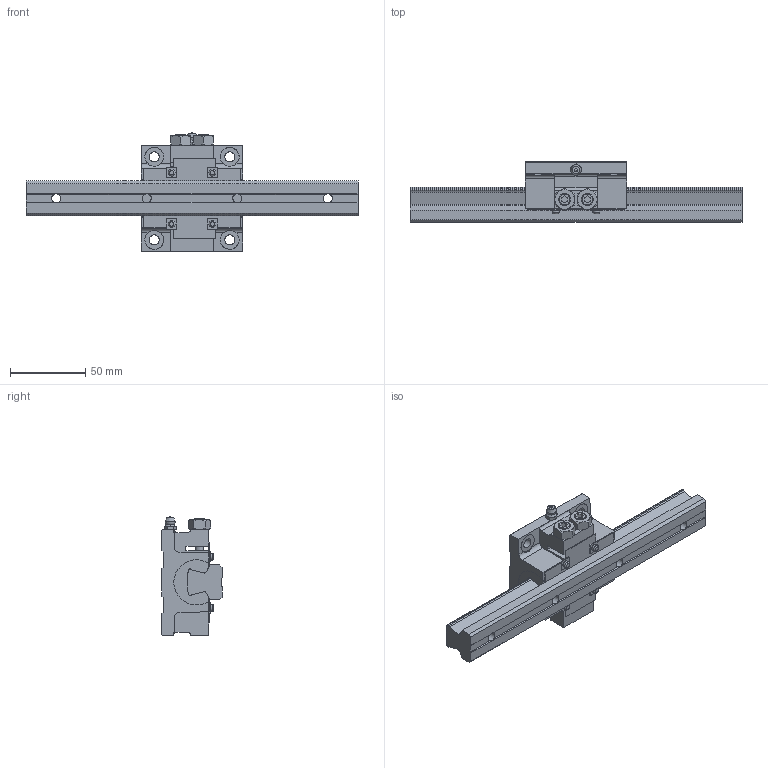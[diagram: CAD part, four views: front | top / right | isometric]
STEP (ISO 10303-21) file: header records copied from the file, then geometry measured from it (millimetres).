
FILE_DESCRIPTION(/* description */ ('STEP AP203'),/* implementation_level */ '2;1');
FILE_NAME(/* name */ 'NSR20TBC1-220L_G20_0_A-M6F_76-5_0_0_0',/* time_stamp */ '2024-05-21T12:12:19+02:00',/* author */ ('License CC BY-ND 4.0'),/* organization */ ('CADENAS'),/* preprocessor_version */ 'ST-DEVELOPER v19.3',/* originating_system */ 'PARTsolutions',/* authorisation */ ' ');
FILE_SCHEMA (('CONFIG_CONTROL_DESIGN'));
Length unit declared in the file: millimetre
Products named in the file (3): NSR20TBC1-220L_G20_0_A-M6F_76-5_0_0_0; NSR20TBC22020 Track; NSR20TBC
Assembly tree (2 placements, depth 2):
  NSR20TBC1-220L_G20_0_A-M6F_76-5_0_0_0
    NSR20TBC22020 Track
    NSR20TBC
Bounding box: 220 x 40 x 78.41 mm (x, y, z)
Volume: 188358.9 mm3; surface area: 44492.7 mm2
Topology: 2 solids, 2 shells, 271 faces, 715 edges, 454 vertices
Faces by surface type: plane 178, cylinder 52, cone 32, torus 7, sphere 2
Full cylindrical faces by diameter (mm): 4.5 x4, 5.5 x2, 6 x4, 6.6 x4, 9.5 x4, 12.5 x4
Entity records: 8197 total; most frequent: CARTESIAN_POINT 1636, ORIENTED_EDGE 1332, DIRECTION 1314, EDGE_CURVE 666, AXIS2_PLACEMENT_3D 450, VERTEX_POINT 438, LINE 414, VECTOR 414
